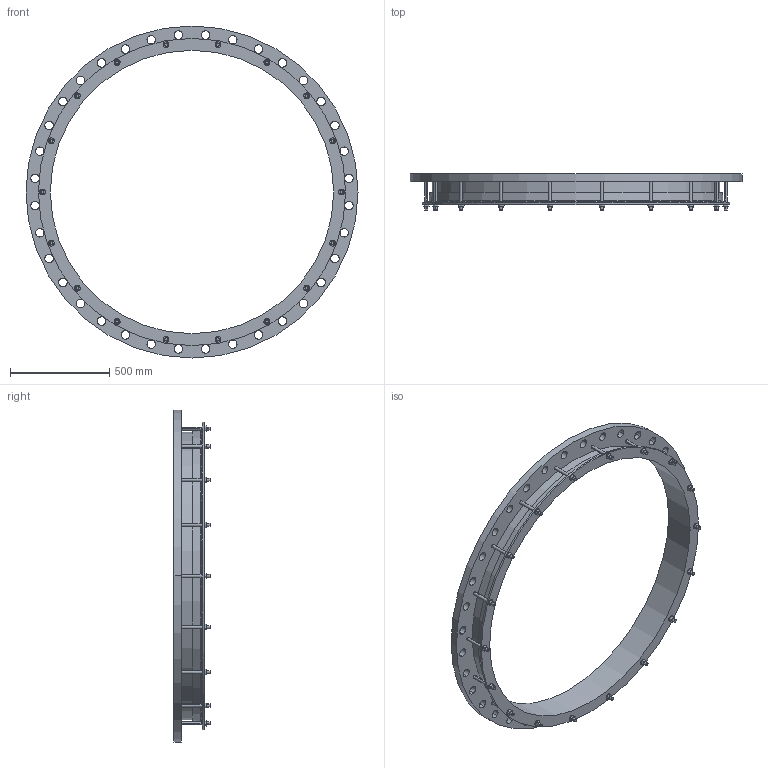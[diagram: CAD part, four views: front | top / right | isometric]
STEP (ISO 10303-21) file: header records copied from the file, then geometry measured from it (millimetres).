
FILE_DESCRIPTION((''),'2;1');
FILE_NAME('1426X1400PN10','2019-01-17T',('mfairey'),('Glynwed Pipe Systems'),'CREO PARAMETRIC BY PTC INC, 2016130','CREO PARAMETRIC BY PTC INC, 2016130','');
FILE_SCHEMA(('CONFIG_CONTROL_DESIGN'));
Length unit declared in the file: millimetre
Products named in the file (1): 1426X1400PN10
Bounding box: 1675 x 182 x 1675 mm (x, y, z)
Volume: 32981448.4 mm3; surface area: 3246345.4 mm2
Topology: 1 solids, 1 shells, 360 faces, 956 edges, 636 vertices
Faces by surface type: cylinder 188, plane 166, cone 4, torus 2
Entity records: 12794 total; most frequent: CARTESIAN_POINT 3348, DIRECTION 1964, ORIENTED_EDGE 1912, EDGE_CURVE 956, AXIS2_PLACEMENT_3D 724, VERTEX_POINT 636, VECTOR 516, LINE 516
